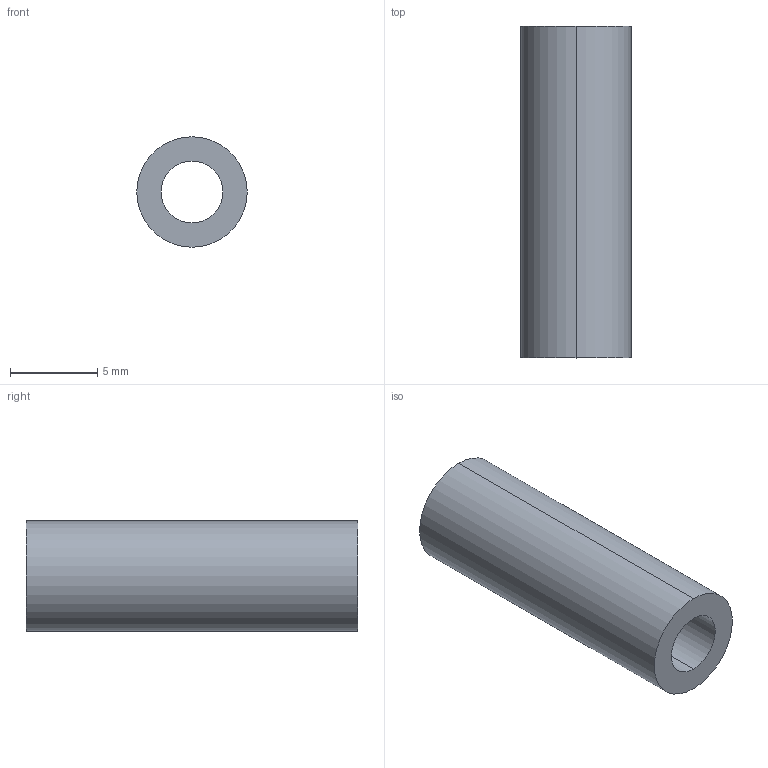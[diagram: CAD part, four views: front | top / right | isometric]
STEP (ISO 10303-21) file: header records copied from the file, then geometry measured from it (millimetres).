
FILE_DESCRIPTION (( 'STEP AP203' ), '1' );
FILE_NAME ('633168.STEP', '2016-09-02T13:31:51', ( '' ), ( '' ), 'SwSTEP 2.0', 'SolidWorks 2014', '' );
FILE_SCHEMA (( 'CONFIG_CONTROL_DESIGN' ));
Length unit declared in the file: inch
Products named in the file (1): 633168
Bounding box: 6.34 x 19.05 x 6.34 mm (x, y, z)
Volume: 412.7 mm3; surface area: 635.7 mm2
Topology: 1 solids, 1 shells, 6 faces, 12 edges, 8 vertices
Faces by surface type: cylinder 4, plane 2
Entity records: 247 total; most frequent: DIRECTION 34, CARTESIAN_POINT 27, ORIENTED_EDGE 24, AXIS2_PLACEMENT_3D 15, EDGE_CURVE 12, VERTEX_POINT 8, PERSON_AND_ORGANIZATION 8, CIRCLE 8
